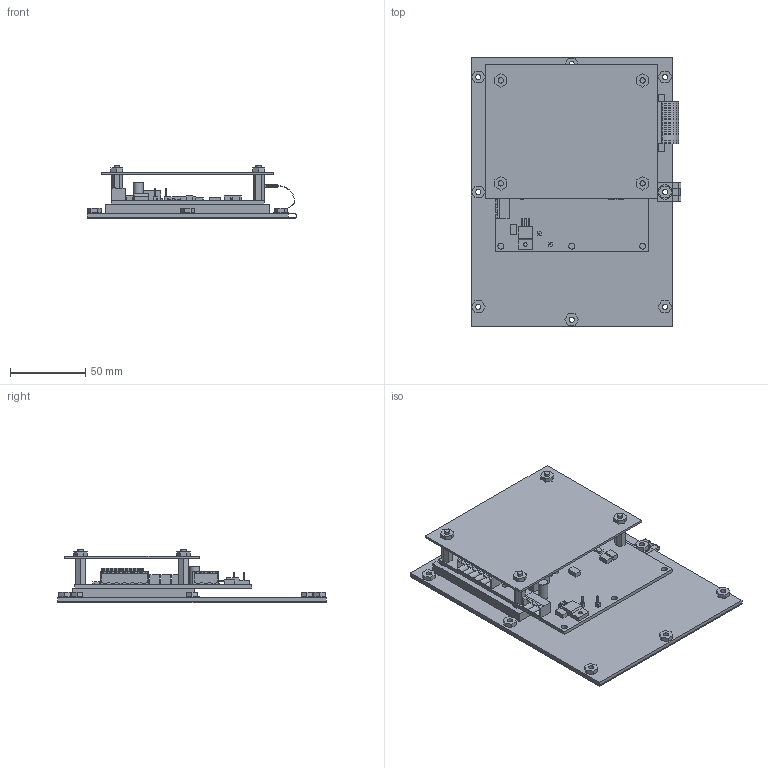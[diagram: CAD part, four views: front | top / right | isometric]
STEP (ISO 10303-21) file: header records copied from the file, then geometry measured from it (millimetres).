
FILE_DESCRIPTION(/* description */ (''),/* implementation_level */ '2;1');
FILE_NAME(/* name */ 'R:\Temp\J. Narvaez\IAN DRAWINGS\001 - Controls\001 - Magnum Controllers\001 - MCS-MAGNUM-OEM-12\Mag-Keypad-OEM.stp',/* time_stamp */ '2022-11-14T09:27:14-05:00',/* author */ ('mjeter'),/* organization */ ('unknown'),/* preprocessor_version */ 'ST-DEVELOPER v19',/* originating_system */ 'Autodesk Inventor 2023',/* authorisation */ '');
FILE_SCHEMA (('AUTOMOTIVE_DESIGN { 1 0 10303 214 3 1 1 }'));
Products named in the file (1): Mag-Keypad-OEM
Bounding box: 139.06 x 177.91 x 35.14 mm (x, y, z)
Volume: 180237.2 mm3; surface area: 354780.1 mm2
Topology: 159 solids, 159 shells, 3915 faces, 10693 edges, 7104 vertices
Faces by surface type: plane 3359, cylinder 556
Full cylindrical faces by diameter (mm): 2.386 x1, 3.137 x4, 3.492 x2, 3.505 x36, 3.607 x7, 3.912 x1, 3.975 x7, 4.445 x48, 6.147 x7, 6.604 x1, 9.601 x1, 10.16 x4
Entity records: 122747 total; most frequent: CARTESIAN_POINT 21712, ORIENTED_EDGE 21384, DIRECTION 19644, EDGE_CURVE 10692, LINE 9572, VECTOR 9572, VERTEX_POINT 7102, AXIS2_PLACEMENT_3D 5036
